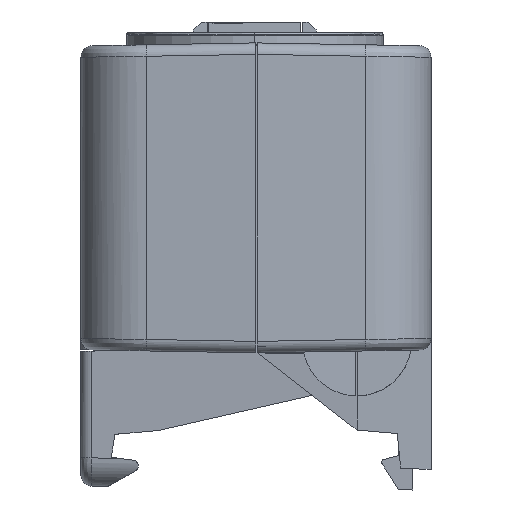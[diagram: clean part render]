
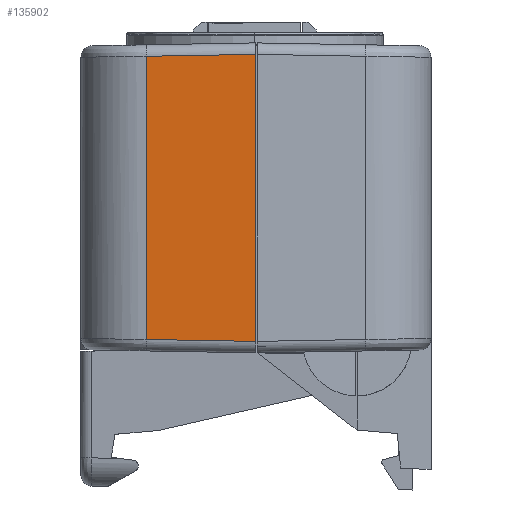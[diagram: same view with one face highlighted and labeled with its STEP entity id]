
A CAD part, left-side view. The second image highlights one B-rep face of the part: STEP entity #135902.
In plain terms, the highlighted planar face has unit normal (-0.999, 0.052, 0).
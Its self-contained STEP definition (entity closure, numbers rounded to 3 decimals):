
#6537 = EDGE_CURVE ( 'NONE', #33428, #18662, #14030, .T. ) ;
#13507 = DIRECTION ( 'NONE',  ( 0.052, 0.998, 0.017 ) ) ;
#14030 = LINE ( 'NONE', #132893, #137176 ) ;
#14264 = LINE ( 'NONE', #95305, #96442 ) ;
#18662 = VERTEX_POINT ( 'NONE', #149150 ) ;
#33428 = VERTEX_POINT ( 'NONE', #61557 ) ;
#38960 = VECTOR ( 'NONE', #76122, 1000. ) ;
#39142 = LINE ( 'NONE', #110885, #38960 ) ;
#42836 = EDGE_CURVE ( 'NONE', #18662, #104556, #14264, .T. ) ;
#46764 = VECTOR ( 'NONE', #104368, 1000. ) ;
#48778 = DIRECTION ( 'NONE',  ( 0., 0., -1. ) ) ;
#50129 = CARTESIAN_POINT ( 'NONE',  ( -118.998, 18.928, 6.326 ) ) ;
#52460 = DIRECTION ( 'NONE',  ( 0.052, 0.999, 0. ) ) ;
#57538 = AXIS2_PLACEMENT_3D ( 'NONE', #134311, #65573, #52460 ) ;
#61557 = CARTESIAN_POINT ( 'NONE',  ( -120., -0.2, 6.66 ) ) ;
#65573 = DIRECTION ( 'NONE',  ( -0.999, 0.052, 0. ) ) ;
#76122 = DIRECTION ( 'NONE',  ( 0.052, 0.998, -0.017 ) ) ;
#82082 = ORIENTED_EDGE ( 'NONE', *, *, #122031, .T. ) ;
#87510 = CARTESIAN_POINT ( 'NONE',  ( -118.998, 18.928, -43.009 ) ) ;
#95305 = CARTESIAN_POINT ( 'NONE',  ( -119.673, 6.035, -43.234 ) ) ;
#96442 = VECTOR ( 'NONE', #13507, 1000. ) ;
#99543 = FACE_OUTER_BOUND ( 'NONE', #118672, .T. ) ;
#103559 = ORIENTED_EDGE ( 'NONE', *, *, #6537, .F. ) ;
#104368 = DIRECTION ( 'NONE',  ( 0., 0., 1. ) ) ;
#104556 = VERTEX_POINT ( 'NONE', #87510 ) ;
#110885 = CARTESIAN_POINT ( 'NONE',  ( -120., -0.2, 6.66 ) ) ;
#113644 = EDGE_CURVE ( 'NONE', #104556, #152365, #138396, .T. ) ;
#118672 = EDGE_LOOP ( 'NONE', ( #103559, #82082, #136785, #144985 ) ) ;
#122031 = EDGE_CURVE ( 'NONE', #33428, #152365, #39142, .T. ) ;
#132893 = CARTESIAN_POINT ( 'NONE',  ( -120., -0.2, -68.341 ) ) ;
#134311 = CARTESIAN_POINT ( 'NONE',  ( -120., -0.2, -18.341 ) ) ;
#135902 = ADVANCED_FACE ( 'NONE', ( #99543 ), #146678, .T. ) ;
#136785 = ORIENTED_EDGE ( 'NONE', *, *, #113644, .F. ) ;
#137176 = VECTOR ( 'NONE', #48778, 1000. ) ;
#138396 = LINE ( 'NONE', #139917, #46764 ) ;
#139917 = CARTESIAN_POINT ( 'NONE',  ( -118.998, 18.928, -18.341 ) ) ;
#144985 = ORIENTED_EDGE ( 'NONE', *, *, #42836, .F. ) ;
#146678 = PLANE ( 'NONE',  #57538 ) ;
#149150 = CARTESIAN_POINT ( 'NONE',  ( -120., -0.2, -43.343 ) ) ;
#152365 = VERTEX_POINT ( 'NONE', #50129 ) ;
